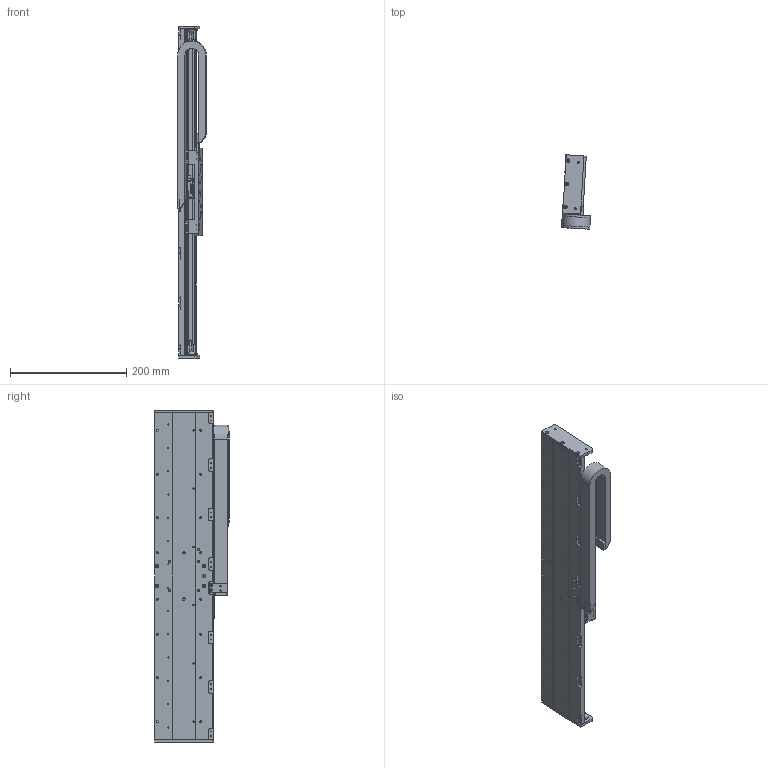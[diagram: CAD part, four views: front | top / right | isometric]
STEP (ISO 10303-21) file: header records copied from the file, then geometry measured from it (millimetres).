
FILE_DESCRIPTION(/* description */ ('MSR100 BASE'),/* implementation_level */ '2;1');
FILE_NAME(/* name */ 'I:\FY15 Projects\MSR\MSR100\Web Step Models\mSR100L-400XLDXXXXXXCM13.stp',/* time_stamp */ '2015-02-18T13:26:30-05:00',/* author */ ('BF20108'),/* organization */ (''),/* preprocessor_version */ 'ST-DEVELOPER v15.2',/* originating_system */ 'Autodesk Inventor 2014',/* authorisation */ '');
FILE_SCHEMA (('AUTOMOTIVE_DESIGN { 1 0 10303 214 3 1 1 }'));
Products named in the file (18): 102-5710-10; 003-3562-42; 102-5702-09; ml18-120m-n; ml18-80m-n; 102-5703-01; 102-5705-01; 002-3740-10; 003-3561; 003-5000; 102-5708; ML18-5E; 002-3740-long-carriage-assy; mx100-mcb; mx100-scb; e045-16-018-carrier-12; 002-3740-cbl-carr-lc-05; 002-3740
Bounding box: 49.76 x 127.66 x 570 mm (x, y, z)
Volume: 968913.2 mm3; surface area: 449151.2 mm2
Topology: 26 solids, 27 shells, 3217 faces, 8599 edges, 5507 vertices
Faces by surface type: plane 1525, cylinder 1241, torus 224, cone 215, bspline 8, sphere 4
Full cylindrical faces by diameter (mm): 0.5 x8, 1 x4, 1.567 x111, 1.588 x2, 2.007 x18, 2.013 x18, 2.135 x4, 2.4 x74, 2.459 x24, 2.5 x20, 2.642 x4, 2.75 x1, 3 x30, 3.242 x10, 3.4 x32, 3.505 x4, 4 x4, 4.17 x2, 4.2 x75, 4.5 x18, 5 x9, 5.08 x2, 6 x36, 11.176 x4
Entity records: 60813 total; most frequent: CARTESIAN_POINT 11373, DIRECTION 10289, ORIENTED_EDGE 9394, EDGE_CURVE 4683, AXIS2_PLACEMENT_3D 3703, VERTEX_POINT 3308, EDGE_LOOP 3009, LINE 2883
